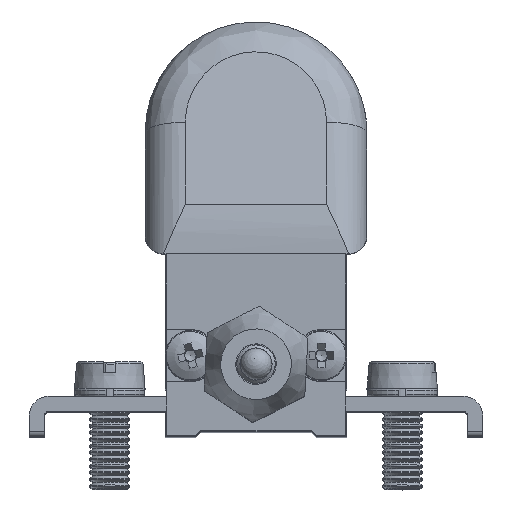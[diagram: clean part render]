
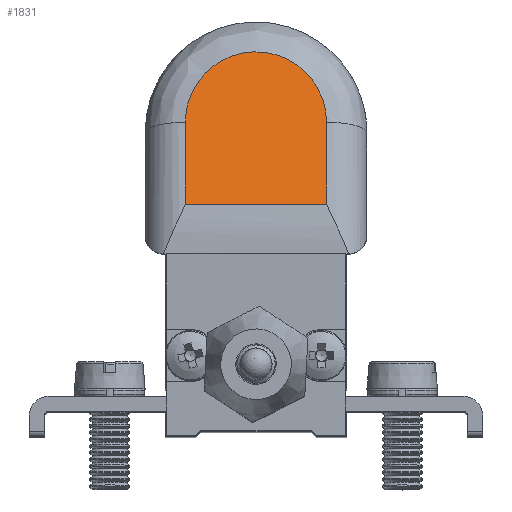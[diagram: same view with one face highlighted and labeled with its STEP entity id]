
A CAD part, top view. The second image highlights one B-rep face of the part: STEP entity #1831.
In plain terms, the highlighted planar face has unit normal (0, 0.259, 0.966) as drawn and (0, 0.259, -0.966) by its records, which use the part's own axes.
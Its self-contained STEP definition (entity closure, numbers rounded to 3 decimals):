
#330 = CARTESIAN_POINT ( 'NONE',  ( 15.9, 31.035, -1.177 ) ) ;
#525 = CARTESIAN_POINT ( 'NONE',  ( 15.9, 22.916, -3.353 ) ) ;
#895 = LINE ( 'NONE', #9062, #4268 ) ;
#1831 = ADVANCED_FACE ( 'NONE', ( #7919 ), #9257, .F. ) ;
#1931 = VERTEX_POINT ( 'NONE', #2556 ) ;
#2556 = CARTESIAN_POINT ( 'NONE',  ( 1.9, 22.916, -3.353 ) ) ;
#2935 = VECTOR ( 'NONE', #8765, 1000. ) ;
#3384 = VERTEX_POINT ( 'NONE', #9133 ) ;
#4037 = EDGE_CURVE ( 'NONE', #3384, #10966, #8908, .T. ) ;
#4172 = CARTESIAN_POINT ( 'NONE',  ( 1.9, 31.035, -1.177 ) ) ;
#4268 = VECTOR ( 'NONE', #10043, 1000. ) ;
#5308 = AXIS2_PLACEMENT_3D ( 'NONE', #10232, #12110, #6337 ) ;
#5404 = ORIENTED_EDGE ( 'NONE', *, *, #4037, .T. ) ;
#5808 = VECTOR ( 'NONE', #10167, 1000. ) ;
#6199 = CARTESIAN_POINT ( 'NONE',  ( 15.9, 45.035, 2.574 ) ) ;
#6337 = DIRECTION ( 'NONE',  ( 0., -0.966, -0.259 ) ) ;
#6359 = EDGE_CURVE ( 'NONE', #10426, #1931, #10717, .T. ) ;
#7483 = EDGE_CURVE ( 'NONE', #1931, #3384, #895, .T. ) ;
#7559 = EDGE_CURVE ( 'NONE', #10966, #10426, #8361, .T. ) ;
#7802 = CARTESIAN_POINT ( 'NONE',  ( 19.901, 22.916, -3.353 ) ) ;
#7919 = FACE_OUTER_BOUND ( 'NONE', #8015, .T. ) ;
#8015 = EDGE_LOOP ( 'NONE', ( #8848, #12108, #11594, #5404 ) ) ;
#8361 = LINE ( 'NONE', #8384, #5808 ) ;
#8384 = CARTESIAN_POINT ( 'NONE',  ( 15.9, 20.5, -4. ) ) ;
#8765 = DIRECTION ( 'NONE',  ( -1., 0., 0. ) ) ;
#8771 = CARTESIAN_POINT ( 'NONE',  ( 15.9, 31.035, -1.177 ) ) ;
#8848 = ORIENTED_EDGE ( 'NONE', *, *, #7559, .T. ) ;
#8908 =( BOUNDED_CURVE ( )  B_SPLINE_CURVE ( 3, ( #4172, #9119, #6199, #330 ),
 .UNSPECIFIED., .F., .F. ) 
 B_SPLINE_CURVE_WITH_KNOTS ( ( 4, 4 ),
 ( 1.571, 4.712 ),
 .UNSPECIFIED. ) 
 CURVE ( )  GEOMETRIC_REPRESENTATION_ITEM ( )  RATIONAL_B_SPLINE_CURVE ( ( 1., 0.333, 0.333, 1. ) ) 
 REPRESENTATION_ITEM ( '' )  );
#9062 = CARTESIAN_POINT ( 'NONE',  ( 1.9, 30., -1.454 ) ) ;
#9119 = CARTESIAN_POINT ( 'NONE',  ( 1.9, 45.035, 2.574 ) ) ;
#9133 = CARTESIAN_POINT ( 'NONE',  ( 1.9, 31.035, -1.177 ) ) ;
#9257 = PLANE ( 'NONE',  #5308 ) ;
#10043 = DIRECTION ( 'NONE',  ( 0., 0.966, 0.259 ) ) ;
#10167 = DIRECTION ( 'NONE',  ( 0., -0.966, -0.259 ) ) ;
#10232 = CARTESIAN_POINT ( 'NONE',  ( 19.901, 45.924, 2.812 ) ) ;
#10426 = VERTEX_POINT ( 'NONE', #525 ) ;
#10717 = LINE ( 'NONE', #7802, #2935 ) ;
#10966 = VERTEX_POINT ( 'NONE', #8771 ) ;
#11594 = ORIENTED_EDGE ( 'NONE', *, *, #7483, .T. ) ;
#12108 = ORIENTED_EDGE ( 'NONE', *, *, #6359, .T. ) ;
#12110 = DIRECTION ( 'NONE',  ( 0., -0.259, 0.966 ) ) ;
